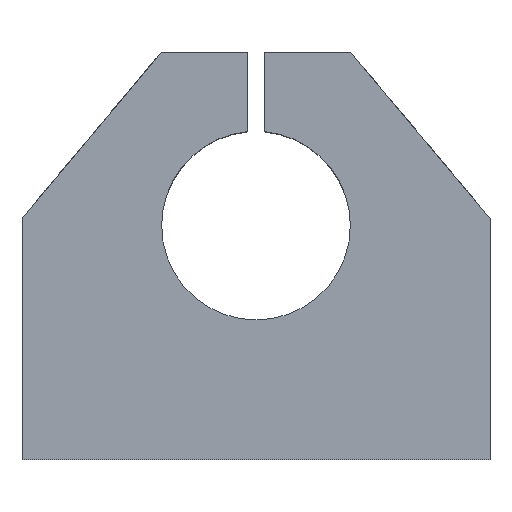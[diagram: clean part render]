
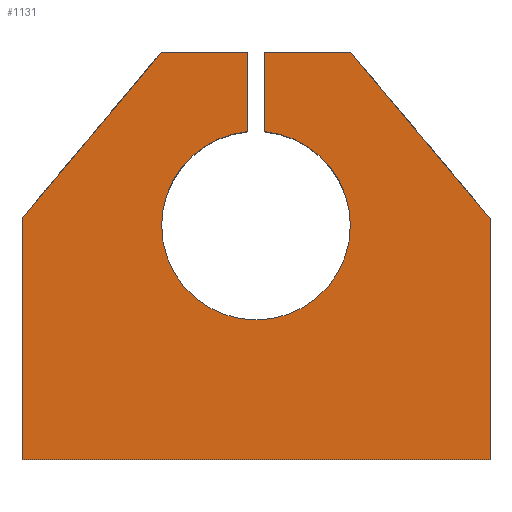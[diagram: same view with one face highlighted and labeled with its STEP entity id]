
A CAD part, top view. The second image highlights one B-rep face of the part: STEP entity #1131.
In plain terms, the highlighted planar face has unit normal (0, 0, 1).
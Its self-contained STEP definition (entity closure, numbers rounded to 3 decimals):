
#10 = CARTESIAN_POINT ( 'NONE',  ( -31., 27., 14. ) ) ;
#26 = VERTEX_POINT ( 'NONE', #401 ) ;
#32 = VERTEX_POINT ( 'NONE', #861 ) ;
#37 = VERTEX_POINT ( 'NONE', #1152 ) ;
#48 = DIRECTION ( 'NONE',  ( -1., 0., 0. ) ) ;
#85 = ORIENTED_EDGE ( 'NONE', *, *, #588, .T. ) ;
#91 = ORIENTED_EDGE ( 'NONE', *, *, #480, .F. ) ;
#111 = VERTEX_POINT ( 'NONE', #520 ) ;
#127 = CARTESIAN_POINT ( 'NONE',  ( 1.075, 27., 14. ) ) ;
#128 = CIRCLE ( 'NONE', #816, 12.5 ) ;
#145 = FACE_OUTER_BOUND ( 'NONE', #1205, .T. ) ;
#181 = DIRECTION ( 'NONE',  ( 0., 1., 0. ) ) ;
#211 = LINE ( 'NONE', #961, #563 ) ;
#214 = CARTESIAN_POINT ( 'NONE',  ( 0., 4., 14. ) ) ;
#219 = CARTESIAN_POINT ( 'NONE',  ( -31., 27., 14. ) ) ;
#221 = ORIENTED_EDGE ( 'NONE', *, *, #787, .T. ) ;
#238 = DIRECTION ( 'NONE',  ( 1., 0., 0. ) ) ;
#242 = DIRECTION ( 'NONE',  ( 1., 0., 0. ) ) ;
#251 = VECTOR ( 'NONE', #48, 1000. ) ;
#280 = VERTEX_POINT ( 'NONE', #127 ) ;
#302 = CARTESIAN_POINT ( 'NONE',  ( 1.075, 16.454, 14. ) ) ;
#314 = DIRECTION ( 'NONE',  ( 0., 0., 1. ) ) ;
#350 = CARTESIAN_POINT ( 'NONE',  ( -1.075, 27., 14. ) ) ;
#353 = CIRCLE ( 'NONE', #658, 12.5 ) ;
#357 = CARTESIAN_POINT ( 'NONE',  ( 0., 4., 14. ) ) ;
#374 = CARTESIAN_POINT ( 'NONE',  ( 1.075, 27., 14. ) ) ;
#376 = ORIENTED_EDGE ( 'NONE', *, *, #522, .F. ) ;
#396 = ORIENTED_EDGE ( 'NONE', *, *, #747, .T. ) ;
#401 = CARTESIAN_POINT ( 'NONE',  ( -12.54, 27., 14. ) ) ;
#402 = LINE ( 'NONE', #773, #1095 ) ;
#409 = DIRECTION ( 'NONE',  ( -0.643, 0.766, 0. ) ) ;
#423 = VECTOR ( 'NONE', #1061, 1000. ) ;
#427 = EDGE_CURVE ( 'NONE', #1075, #725, #1115, .T. ) ;
#431 = CARTESIAN_POINT ( 'NONE',  ( -1.075, 16.454, 14. ) ) ;
#435 = VERTEX_POINT ( 'NONE', #350 ) ;
#446 = CIRCLE ( 'NONE', #1042, 12.5 ) ;
#458 = CARTESIAN_POINT ( 'NONE',  ( 31., 5., 14. ) ) ;
#470 = VERTEX_POINT ( 'NONE', #458 ) ;
#479 = VECTOR ( 'NONE', #931, 1000. ) ;
#480 = EDGE_CURVE ( 'NONE', #32, #111, #128, .T. ) ;
#488 = CARTESIAN_POINT ( 'NONE',  ( -1.075, 27., 14. ) ) ;
#497 = VECTOR ( 'NONE', #768, 1000. ) ;
#520 = CARTESIAN_POINT ( 'NONE',  ( 12.5, 4., 14. ) ) ;
#522 = EDGE_CURVE ( 'NONE', #783, #32, #353, .T. ) ;
#547 = CARTESIAN_POINT ( 'NONE',  ( -31., -27., 14. ) ) ;
#559 = EDGE_CURVE ( 'NONE', #937, #280, #653, .T. ) ;
#563 = VECTOR ( 'NONE', #966, 1000. ) ;
#567 = DIRECTION ( 'NONE',  ( 1., 0., 0. ) ) ;
#585 = LINE ( 'NONE', #615, #1214 ) ;
#588 = EDGE_CURVE ( 'NONE', #37, #1075, #211, .T. ) ;
#592 = VECTOR ( 'NONE', #181, 1000. ) ;
#602 = ORIENTED_EDGE ( 'NONE', *, *, #1106, .F. ) ;
#615 = CARTESIAN_POINT ( 'NONE',  ( -20.654, 17.33, 14. ) ) ;
#646 = DIRECTION ( 'NONE',  ( 0., -1., 0. ) ) ;
#649 = DIRECTION ( 'NONE',  ( 0., 0., 1. ) ) ;
#653 = LINE ( 'NONE', #10, #497 ) ;
#658 = AXIS2_PLACEMENT_3D ( 'NONE', #214, #844, #567 ) ;
#675 = EDGE_CURVE ( 'NONE', #111, #1068, #446, .T. ) ;
#723 = CARTESIAN_POINT ( 'NONE',  ( 0., 0., 14. ) ) ;
#725 = VERTEX_POINT ( 'NONE', #1166 ) ;
#747 = EDGE_CURVE ( 'NONE', #435, #26, #885, .T. ) ;
#752 = EDGE_CURVE ( 'NONE', #26, #37, #585, .T. ) ;
#757 = LINE ( 'NONE', #1135, #592 ) ;
#762 = ORIENTED_EDGE ( 'NONE', *, *, #675, .F. ) ;
#768 = DIRECTION ( 'NONE',  ( -1., 0., 0. ) ) ;
#769 = ORIENTED_EDGE ( 'NONE', *, *, #752, .T. ) ;
#773 = CARTESIAN_POINT ( 'NONE',  ( 20.654, 17.33, 14. ) ) ;
#783 = VERTEX_POINT ( 'NONE', #431 ) ;
#787 = EDGE_CURVE ( 'NONE', #470, #937, #402, .T. ) ;
#803 = AXIS2_PLACEMENT_3D ( 'NONE', #723, #888, #238 ) ;
#812 = ORIENTED_EDGE ( 'NONE', *, *, #559, .T. ) ;
#816 = AXIS2_PLACEMENT_3D ( 'NONE', #357, #649, #1011 ) ;
#844 = DIRECTION ( 'NONE',  ( 0., 0., 1. ) ) ;
#848 = VECTOR ( 'NONE', #646, 1000. ) ;
#861 = CARTESIAN_POINT ( 'NONE',  ( -12.5, 4., 14. ) ) ;
#871 = ORIENTED_EDGE ( 'NONE', *, *, #427, .T. ) ;
#885 = LINE ( 'NONE', #219, #251 ) ;
#888 = DIRECTION ( 'NONE',  ( 0., 0., 1. ) ) ;
#923 = EDGE_CURVE ( 'NONE', #725, #470, #757, .T. ) ;
#931 = DIRECTION ( 'NONE',  ( 1., 0., 0. ) ) ;
#937 = VERTEX_POINT ( 'NONE', #942 ) ;
#942 = CARTESIAN_POINT ( 'NONE',  ( 12.54, 27., 14. ) ) ;
#947 = EDGE_CURVE ( 'NONE', #280, #1068, #1127, .T. ) ;
#961 = CARTESIAN_POINT ( 'NONE',  ( -31., 27., 14. ) ) ;
#966 = DIRECTION ( 'NONE',  ( 0., -1., 0. ) ) ;
#1011 = DIRECTION ( 'NONE',  ( 1., 0., 0. ) ) ;
#1042 = AXIS2_PLACEMENT_3D ( 'NONE', #1065, #314, #242 ) ;
#1061 = DIRECTION ( 'NONE',  ( 0., -1., 0. ) ) ;
#1065 = CARTESIAN_POINT ( 'NONE',  ( 0., 4., 14. ) ) ;
#1068 = VERTEX_POINT ( 'NONE', #302 ) ;
#1075 = VERTEX_POINT ( 'NONE', #1155 ) ;
#1080 = PLANE ( 'NONE',  #803 ) ;
#1084 = DIRECTION ( 'NONE',  ( -0.643, -0.766, 0. ) ) ;
#1095 = VECTOR ( 'NONE', #409, 1000. ) ;
#1106 = EDGE_CURVE ( 'NONE', #435, #783, #1163, .T. ) ;
#1115 = LINE ( 'NONE', #547, #479 ) ;
#1127 = LINE ( 'NONE', #374, #848 ) ;
#1131 = ADVANCED_FACE ( 'NONE', ( #145 ), #1080, .T. ) ;
#1135 = CARTESIAN_POINT ( 'NONE',  ( 31., 27., 14. ) ) ;
#1148 = ORIENTED_EDGE ( 'NONE', *, *, #923, .T. ) ;
#1152 = CARTESIAN_POINT ( 'NONE',  ( -31., 5., 14. ) ) ;
#1155 = CARTESIAN_POINT ( 'NONE',  ( -31., -27., 14. ) ) ;
#1163 = LINE ( 'NONE', #488, #423 ) ;
#1166 = CARTESIAN_POINT ( 'NONE',  ( 31., -27., 14. ) ) ;
#1180 = ORIENTED_EDGE ( 'NONE', *, *, #947, .T. ) ;
#1205 = EDGE_LOOP ( 'NONE', ( #812, #1180, #762, #91, #376, #602, #396, #769, #85, #871, #1148, #221 ) ) ;
#1214 = VECTOR ( 'NONE', #1084, 1000. ) ;
